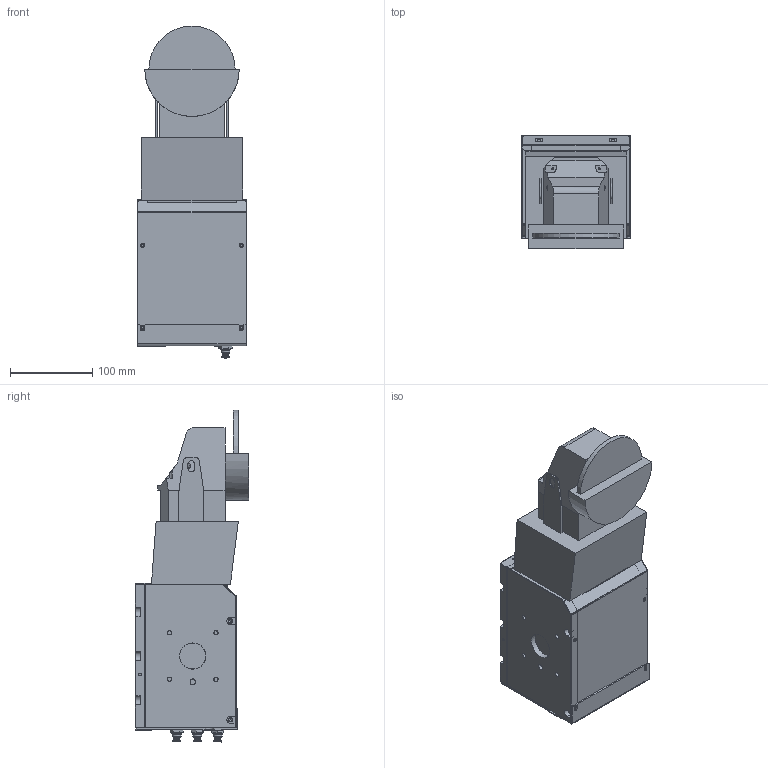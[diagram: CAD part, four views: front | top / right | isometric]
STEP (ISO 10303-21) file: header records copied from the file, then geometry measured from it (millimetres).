
FILE_DESCRIPTION(/* description */ (''),/* implementation_level */ '2;1');
FILE_NAME(/* name */ '\\Ds713\02.研發專案\T_機構研發\3_T3000系列_浮動工具\PC200(\X2\8F15781478E896FB52D578028F2A6A5F\X0\)\3.PC201-CAD\0. 簡化CAD\PC201-001-000-00_總組_Substitute_2.stp',/* time_stamp */ '2020-03-25T14:46:51+08:00',/* author */ ('PC-acer'),/* organization */ (''),/* preprocessor_version */ 'ST-DEVELOPER v15.2',/* originating_system */ 'Autodesk Inventor 2014',/* authorisation */ '');
FILE_SCHEMA (('AUTOMOTIVE_DESIGN { 1 0 10303 214 3 1 1 }'));
Length unit declared in the file: millimetre
Products named in the file (1): PC201-001-000-00_總組_Substitute_2
Bounding box: 132 x 138.33 x 403.86 mm (x, y, z)
Volume: 4299766.5 mm3; surface area: 318138.3 mm2
Topology: 1 solids, 3 shells, 749 faces, 1835 edges, 1142 vertices
Faces by surface type: plane 418, cylinder 200, cone 125, torus 6
Full cylindrical faces by diameter (mm): 2.459 x6, 3.242 x18, 4 x3, 4.134 x4, 4.459 x1, 4.917 x20, 5 x4, 5.4 x3, 5.5 x4, 6.5 x6, 6.6 x2, 6.647 x2, 7.5 x6, 9.9 x3, 10.8 x3, 11 x1, 12 x6, 12.5 x3, 31.5 x3
Entity records: 21099 total; most frequent: CARTESIAN_POINT 3634, DIRECTION 3535, ORIENTED_EDGE 3148, EDGE_CURVE 1572, AXIS2_PLACEMENT_3D 1299, VERTEX_POINT 1078, EDGE_LOOP 1054, LINE 937
